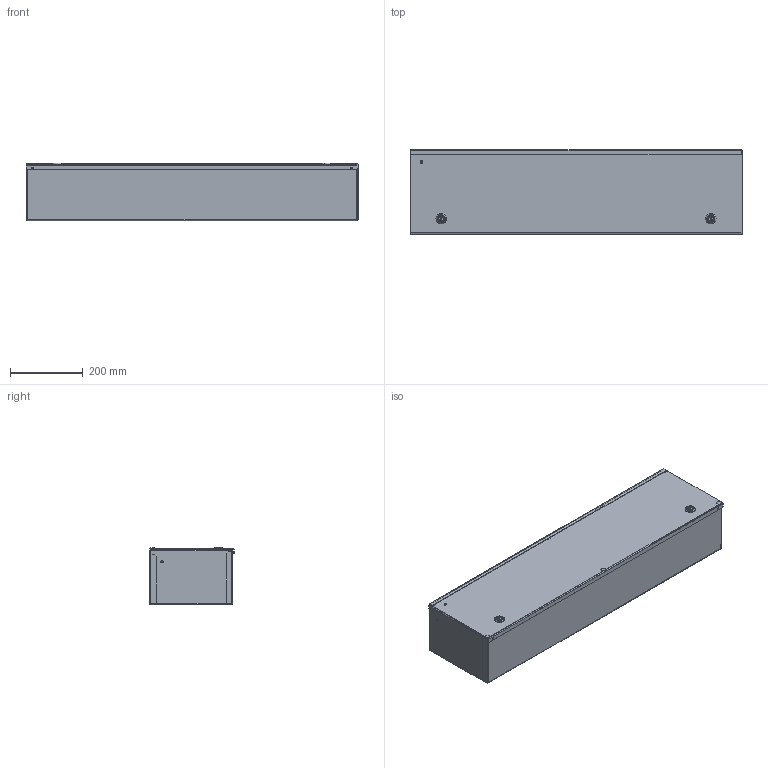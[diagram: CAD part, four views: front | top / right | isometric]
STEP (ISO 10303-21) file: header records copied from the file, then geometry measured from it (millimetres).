
FILE_DESCRIPTION((''),'2;1');
FILE_NAME('MODEL-358_ASM','2019-08-28T09:28:27',('mikek'),('SAGINAW CONTROL & ENGINEERING'),'CREO PARAMETRIC BY PTC INC, 2017260','CREO PARAMETRIC BY PTC INC, 2017260','');
FILE_SCHEMA(('AUTOMOTIVE_DESIGN { 1 0 10303 214 1 1 1 1 }'));
Length unit declared in the file: inch
Products named in the file (12): MODEL-358-BDY; MODEL-358-CVR; 128578; 128579; 100030; 100063; 105060; 123581; SUBPANEL; 102522; SUBPANEL-SUBASSEMBLY_ASM; MODEL-358_ASM
Assembly tree (29 placements, depth 3):
  MODEL-358_ASM
    MODEL-358-BDY
    MODEL-358-CVR
    128578  x2
    128579  x2
    100030  x6
    100063  x2
    105060  x6
    123581
    SUBPANEL-SUBASSEMBLY_ASM
      SUBPANEL
      102522  x6
Bounding box: 914.5 x 231.71 x 159.54 mm (x, y, z)
Volume: 1568064 mm3; surface area: 1984226.4 mm2
Topology: 27 solids, 27 shells, 1879 faces, 5001 edges, 3088 vertices
Faces by surface type: cylinder 769, plane 762, bspline 178, torus 108, cone 42, sphere 20
Entity records: 34976 total; most frequent: CARTESIAN_POINT 9746, DIRECTION 3707, ORIENTED_EDGE 3600, PRESENTATION_STYLE_ASSIGNMENT 1809, STYLED_ITEM 1809, CURVE_STYLE 1800, EDGE_CURVE 1800, AXIS2_PLACEMENT_3D 1358
